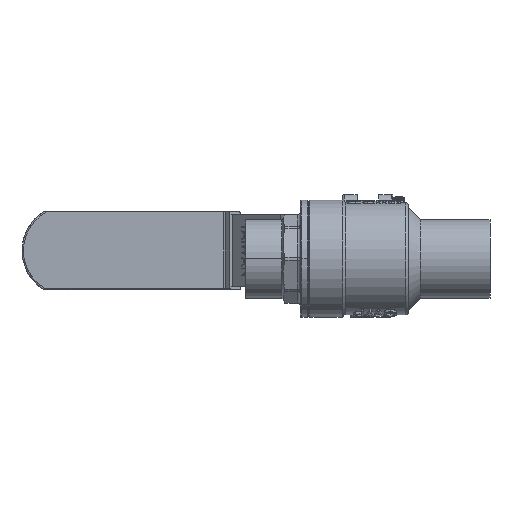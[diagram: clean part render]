
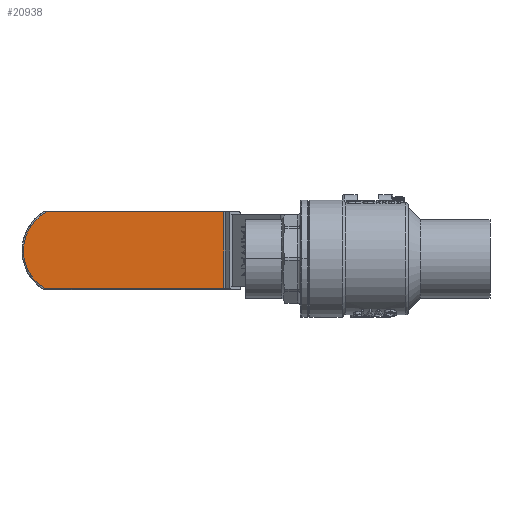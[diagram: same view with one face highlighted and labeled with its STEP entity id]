
A CAD part, front view. The second image highlights one B-rep face of the part: STEP entity #20938.
In plain terms, the highlighted planar face has unit normal (0, -1, 0).
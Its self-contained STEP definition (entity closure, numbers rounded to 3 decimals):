
#1229 = AXIS2_PLACEMENT_3D ( 'NONE', #124468, #54405, #136235 ) ;
#12011 = EDGE_CURVE ( 'NONE', #72267, #142081, #20220, .T. ) ;
#13411 = ORIENTED_EDGE ( 'NONE', *, *, #90394, .T. ) ;
#15969 = DIRECTION ( 'NONE',  ( 0., -1., 0. ) ) ;
#17901 = CARTESIAN_POINT ( 'NONE',  ( 50.456, 20.5, 13.15 ) ) ;
#20220 = CIRCLE ( 'NONE', #27485, 15.5 ) ;
#20938 = ADVANCED_FACE ( 'NONE', ( #95296 ), #42600, .F. ) ;
#24457 = DIRECTION ( 'NONE',  ( 0., 0., -1. ) ) ;
#27485 = AXIS2_PLACEMENT_3D ( 'NONE', #86136, #15969, #97911 ) ;
#30173 = VERTEX_POINT ( 'NONE', #17901 ) ;
#34316 = CARTESIAN_POINT ( 'NONE',  ( 50.456, 20.5, -13.65 ) ) ;
#36903 = LINE ( 'NONE', #117595, #91873 ) ;
#39981 = DIRECTION ( 'NONE',  ( -1., 0., 0. ) ) ;
#41055 = LINE ( 'NONE', #51770, #130835 ) ;
#42600 = PLANE ( 'NONE',  #1229 ) ;
#51770 = CARTESIAN_POINT ( 'NONE',  ( 50.456, 20.5, 13.15 ) ) ;
#54405 = DIRECTION ( 'NONE',  ( 0., 1., 0. ) ) ;
#55233 = CARTESIAN_POINT ( 'NONE',  ( 49.6, 20.5, -13.65 ) ) ;
#60472 = EDGE_CURVE ( 'NONE', #75881, #72267, #113390, .T. ) ;
#72267 = VERTEX_POINT ( 'NONE', #80562 ) ;
#73019 = ORIENTED_EDGE ( 'NONE', *, *, #12011, .T. ) ;
#75881 = VERTEX_POINT ( 'NONE', #34316 ) ;
#78798 = DIRECTION ( 'NONE',  ( 1., 0., 0. ) ) ;
#80562 = CARTESIAN_POINT ( 'NONE',  ( 112.344, 20.5, -13.65 ) ) ;
#83863 = EDGE_LOOP ( 'NONE', ( #132786, #73019, #13411, #110230 ) ) ;
#86136 = CARTESIAN_POINT ( 'NONE',  ( 105., 20.5, 0. ) ) ;
#90394 = EDGE_CURVE ( 'NONE', #142081, #30173, #41055, .T. ) ;
#91873 = VECTOR ( 'NONE', #24457, 1000. ) ;
#95296 = FACE_OUTER_BOUND ( 'NONE', #83863, .T. ) ;
#97911 = DIRECTION ( 'NONE',  ( 0., 0., 1. ) ) ;
#102711 = EDGE_CURVE ( 'NONE', #30173, #75881, #36903, .T. ) ;
#110230 = ORIENTED_EDGE ( 'NONE', *, *, #102711, .T. ) ;
#113390 = LINE ( 'NONE', #55233, #137157 ) ;
#117595 = CARTESIAN_POINT ( 'NONE',  ( 50.456, 20.5, 12.65 ) ) ;
#124468 = CARTESIAN_POINT ( 'NONE',  ( 49.6, 20.5, 12.65 ) ) ;
#128758 = CARTESIAN_POINT ( 'NONE',  ( 113.205, 20.5, 13.15 ) ) ;
#130835 = VECTOR ( 'NONE', #39981, 1000. ) ;
#132786 = ORIENTED_EDGE ( 'NONE', *, *, #60472, .T. ) ;
#136235 = DIRECTION ( 'NONE',  ( 0., 0., 1. ) ) ;
#137157 = VECTOR ( 'NONE', #78798, 1000. ) ;
#142081 = VERTEX_POINT ( 'NONE', #128758 ) ;
